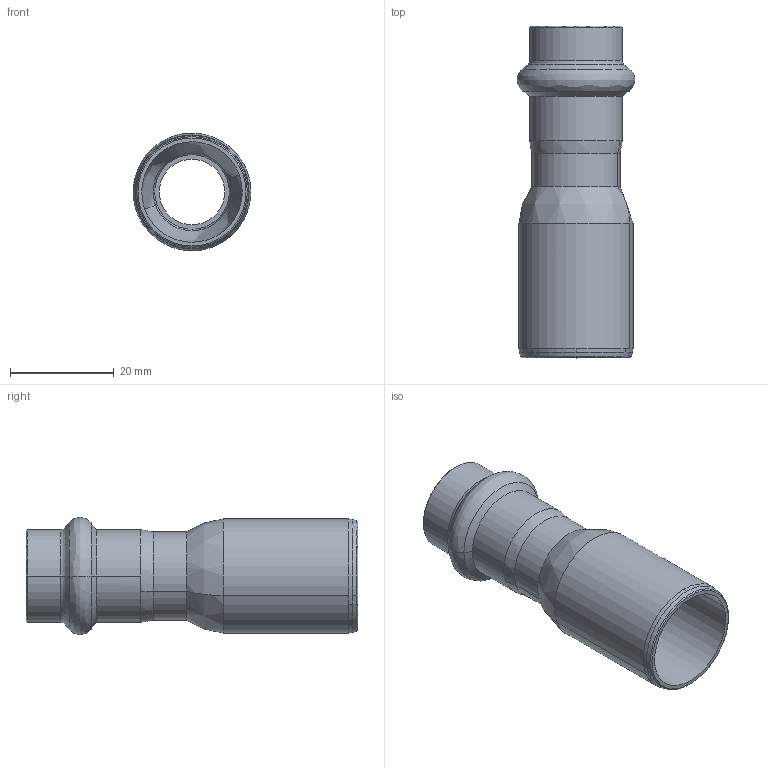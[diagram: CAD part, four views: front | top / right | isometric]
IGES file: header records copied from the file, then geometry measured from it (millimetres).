
Start section: Elysium IGES Interface
Global section: file name: C:\3d modellen sudo\C-Pr VP\SP8243V\8243VW2215.igs; native system: CoCreate Modeling 17.00A  17-Jun-2010; preprocessor: CoCreate IGES_3D V2.2; author: Unknown; organization: Unknown; date: 20130305.092243; units: millimetre
Bounding box: 22.68 x 64.01 x 22.67 mm (x, y, z)
Volume: 5561.4 mm3; surface area: 7874.4 mm2
Topology: 1 solids, 1 shells, 56 faces, 124 edges, 72 vertices
Faces by surface type: bspline 56
